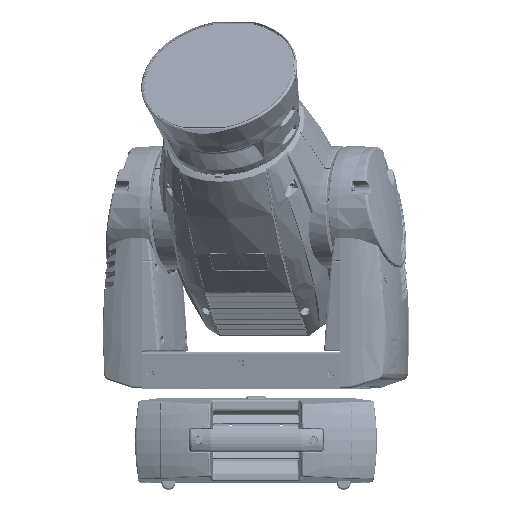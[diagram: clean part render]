
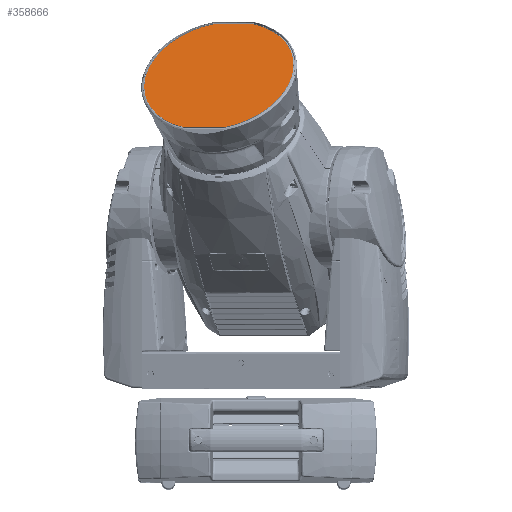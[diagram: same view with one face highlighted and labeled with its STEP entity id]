
A CAD part, top view. The second image highlights one B-rep face of the part: STEP entity #358666.
In plain terms, the highlighted planar face has unit normal (-0.199, 0.707, 0.678).
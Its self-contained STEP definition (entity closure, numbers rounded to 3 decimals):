
#5850 = ORIENTED_EDGE ( 'NONE', *, *, #28626, .T. ) ;
#5866 = ORIENTED_EDGE ( 'NONE', *, *, #28643, .T. ) ;
#5884 = ORIENTED_EDGE ( 'NONE', *, *, #28655, .T. ) ;
#5899 = ORIENTED_EDGE ( 'NONE', *, *, #28678, .T. ) ;
#5913 = ORIENTED_EDGE ( 'NONE', *, *, #28672, .T. ) ;
#28626 = EDGE_CURVE ( 'NONE', #213964, #213942, #229160, .T. ) ;
#28643 = EDGE_CURVE ( 'NONE', #213942, #213945, #229191, .T. ) ;
#28655 = EDGE_CURVE ( 'NONE', #213945, #213979, #229197, .T. ) ;
#28672 = EDGE_CURVE ( 'NONE', #213994, #213964, #229224, .T. ) ;
#28678 = EDGE_CURVE ( 'NONE', #213979, #213994, #229250, .T. ) ;
#213942 = VERTEX_POINT ( 'NONE', #278347 ) ;
#213945 = VERTEX_POINT ( 'NONE', #278340 ) ;
#213964 = VERTEX_POINT ( 'NONE', #278469 ) ;
#213979 = VERTEX_POINT ( 'NONE', #278528 ) ;
#213994 = VERTEX_POINT ( 'NONE', #278738 ) ;
#229160 = CIRCLE ( 'NONE', #547473, 100.3 ) ;
#229176 = VECTOR ( 'NONE', #484204, 1000. ) ;
#229191 = CIRCLE ( 'NONE', #547475, 100.3 ) ;
#229197 = LINE ( 'NONE', #484149, #229176 ) ;
#229219 = VECTOR ( 'NONE', #484257, 1000. ) ;
#229224 = LINE ( 'NONE', #484174, #229219 ) ;
#229250 = CIRCLE ( 'NONE', #547484, 100.3 ) ;
#278340 = CARTESIAN_POINT ( 'NONE',  ( -25.902, 457.906, 316.795 ) ) ;
#278347 = CARTESIAN_POINT ( 'NONE',  ( -78.352, 526.496, 229.927 ) ) ;
#278469 = CARTESIAN_POINT ( 'NONE',  ( 12.716, 595.085, 185.165 ) ) ;
#278528 = CARTESIAN_POINT ( 'NONE',  ( 23.067, 457.906, 331.162 ) ) ;
#278738 = CARTESIAN_POINT ( 'NONE',  ( 61.685, 595.085, 199.532 ) ) ;
#290566 = EDGE_LOOP ( 'NONE', ( #5850, #5866, #5884, #5899, #5913 ) ) ;
#335809 = AXIS2_PLACEMENT_3D ( 'NONE', #449246, #449269, #449271 ) ;
#358666 = ADVANCED_FACE ( 'NONE', ( #464426 ), #449256, .T. ) ;
#449246 = CARTESIAN_POINT ( 'NONE',  ( 17.891, 526.496, 258.163 ) ) ;
#449256 = PLANE ( 'NONE',  #335809 ) ;
#449269 = DIRECTION ( 'NONE',  ( -0.199, 0.707, 0.679 ) ) ;
#449271 = DIRECTION ( 'NONE',  ( 0.96, 0., 0.282 ) ) ;
#464426 = FACE_OUTER_BOUND ( 'NONE', #290566, .T. ) ;
#484072 = DIRECTION ( 'NONE',  ( -0.199, 0.707, 0.679 ) ) ;
#484088 = CARTESIAN_POINT ( 'NONE',  ( 17.891, 526.496, 258.163 ) ) ;
#484104 = CARTESIAN_POINT ( 'NONE',  ( 17.891, 526.496, 258.163 ) ) ;
#484114 = DIRECTION ( 'NONE',  ( 0.96, 0., 0.282 ) ) ;
#484149 = CARTESIAN_POINT ( 'NONE',  ( -25.902, 457.906, 316.795 ) ) ;
#484159 = DIRECTION ( 'NONE',  ( -0.199, 0.707, 0.679 ) ) ;
#484164 = DIRECTION ( 'NONE',  ( 0.96, 0., 0.282 ) ) ;
#484174 = CARTESIAN_POINT ( 'NONE',  ( 12.716, 595.085, 185.165 ) ) ;
#484199 = CARTESIAN_POINT ( 'NONE',  ( 17.891, 526.496, 258.163 ) ) ;
#484204 = DIRECTION ( 'NONE',  ( 0.96, 0., 0.282 ) ) ;
#484257 = DIRECTION ( 'NONE',  ( -0.96, 0., -0.282 ) ) ;
#484272 = DIRECTION ( 'NONE',  ( -0.199, 0.707, 0.679 ) ) ;
#484279 = DIRECTION ( 'NONE',  ( 0.96, 0., 0.282 ) ) ;
#547473 = AXIS2_PLACEMENT_3D ( 'NONE', #484088, #484072, #484114 ) ;
#547475 = AXIS2_PLACEMENT_3D ( 'NONE', #484104, #484159, #484164 ) ;
#547484 = AXIS2_PLACEMENT_3D ( 'NONE', #484199, #484272, #484279 ) ;
